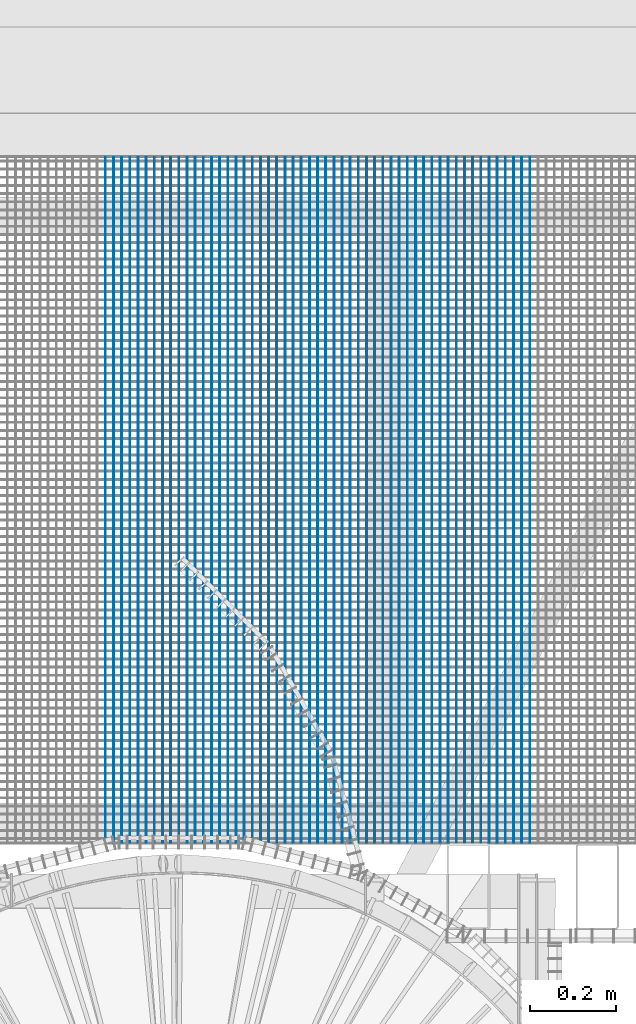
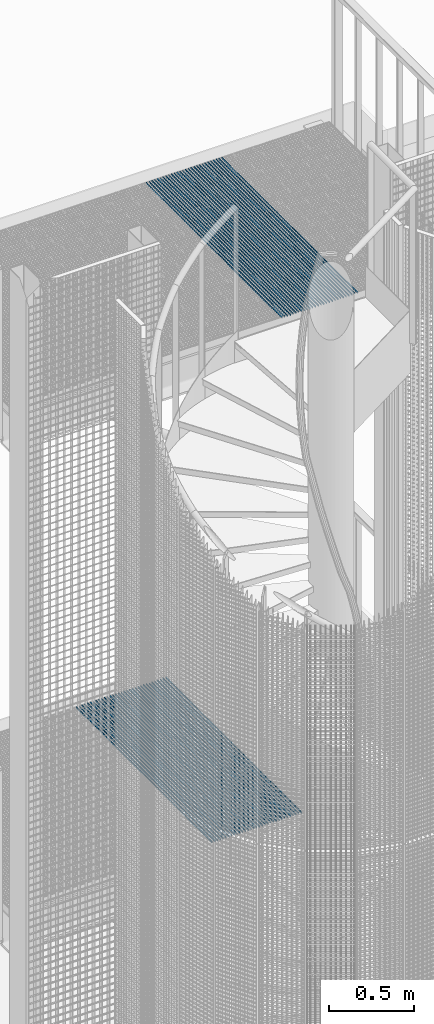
# One storey, part 97 of 1183: 61 beams, 2 elements without a shape of their own.
"""IFC2X3 building model written with IfcOpenShell, lengths in millimetres."""

import ifcopenshell
import ifcopenshell.guid

model = None  # the IFC model being written
_history = None  # IfcOwnerHistory: only IFC2X3 demands one
_inside = {}  # id of a spatial element -> (the spatial element, [elements in it])
_under = {}  # id of a project, library or spatial element -> (it, [spatial elements below it])
_declared = {}  # id of a project -> (the project, [libraries it declares])
_typed = {}  # id of a type object -> (the type object, [elements of that type])
_made_of = {}  # id of a material, layer set ... -> (it, [elements and type objects made of it])


def new_model(schema):
    """Start an empty IFC model of exactly this schema.

    Asked for "IFC4X3", IfcOpenShell would pick the latest addendum, in which some entities
    have other attributes; the version numbers below select the first issue.
    IFC2X3 requires an IfcOwnerHistory on every rooted entity: one is made here for all.
    """
    global model, _history
    if schema == "IFC4X3":
        model = ifcopenshell.file(schema_version=(4, 3, 0, 0))
    else:
        model = ifcopenshell.file(schema=schema)
    _inside.clear()
    _under.clear()
    _declared.clear()
    _typed.clear()
    _made_of.clear()
    _history = None
    if model.schema == "IFC2X3":
        org = make("IfcOrganization", Name="unknown")
        user = make(
            "IfcPersonAndOrganization",
            ThePerson=make("IfcPerson", FamilyName="unknown"),
            TheOrganization=org,
        )
        app = make(
            "IfcApplication",
            ApplicationDeveloper=org,
            Version="unknown",
            ApplicationFullName="unknown",
            ApplicationIdentifier="unknown",
        )
        _history = make(
            "IfcOwnerHistory",
            OwningUser=user,
            OwningApplication=app,
            ChangeAction="ADDED",
            CreationDate=0,
        )
    return model


def make(cls, **values):
    """One entity of the class cls with the attributes given. An attribute that is None is left unset."""
    return model.create_entity(
        cls, **{name: value for name, value in values.items() if value is not None}
    )


def rooted(cls, **values):
    """An entity with a GlobalId (a new one), such as an element, a storey or a relation."""
    return make(cls, GlobalId=ifcopenshell.guid.new(), OwnerHistory=_history, **values)


def si_unit(unit_type, name, prefix=None):
    """IfcSIUnit, for example si_unit("LENGTHUNIT", "METRE", prefix="MILLI")."""
    return make("IfcSIUnit", UnitType=unit_type, Prefix=prefix, Name=name)


def assignment(units):
    """IfcUnitAssignment: the units of a project."""
    return None if units is None else make("IfcUnitAssignment", Units=units)


def point(xyz):
    """IfcCartesianPoint."""
    return None if xyz is None else make("IfcCartesianPoint", Coordinates=xyz)


def direction(xyz):
    """IfcDirection."""
    return None if xyz is None else make("IfcDirection", DirectionRatios=xyz)


def frame(location, z_axis=None, x_axis=None):
    """IfcAxis2Placement3D, a coordinate frame: its origin and axes. An axis left out is left unset."""
    return make(
        "IfcAxis2Placement3D",
        Location=point(location),
        Axis=direction(z_axis),
        RefDirection=direction(x_axis),
    )


def frame_2d(location, x_axis=None):
    """IfcAxis2Placement2D, a coordinate frame in the plane: its origin and x axis."""
    return make(
        "IfcAxis2Placement2D", Location=point(location), RefDirection=direction(x_axis)
    )


def origin_with_axes():
    """The frame at (0, 0, 0) with the z axis (0, 0, 1) and the x axis (1, 0, 0) written out."""
    return frame((0.0, 0.0, 0.0), z_axis=(0.0, 0.0, 1.0), x_axis=(1.0, 0.0, 0.0))


def origin_2d_with_axis():
    """The frame at (0, 0) in the plane with the x axis (1, 0) written out."""
    return frame_2d((0.0, 0.0), x_axis=(1.0, 0.0))


def place(relative_to, where):
    """IfcLocalPlacement: puts the frame where relative to a parent placement (None: the world)."""
    return make(
        "IfcLocalPlacement", PlacementRelTo=relative_to, RelativePlacement=where
    )


def context(
    kind, dimensions, precision=None, world=None, true_north=None, identifier=None
):
    """IfcGeometricRepresentationContext, for example the 3D "Model" context."""
    return make(
        "IfcGeometricRepresentationContext",
        ContextIdentifier=identifier,
        ContextType=kind,
        CoordinateSpaceDimension=dimensions,
        Precision=precision,
        WorldCoordinateSystem=world,
        TrueNorth=true_north,
    )


def subcontext(parent, identifier, kind, view, scale=None):
    """IfcGeometricRepresentationSubContext, for example "Body" below "Model"."""
    return make(
        "IfcGeometricRepresentationSubContext",
        ContextIdentifier=identifier,
        ContextType=kind,
        ParentContext=parent,
        TargetScale=scale,
        TargetView=view,
    )


def project(units=None, contexts=None):
    """IfcProject with its units and contexts."""
    return rooted(
        "IfcProject",
        Name="project",
        RepresentationContexts=contexts,
        UnitsInContext=assignment(units),
    )


def spatial(cls, under=None, at=None, **own):
    """A site, building, storey or space (cls), placed at a placement, below another one or the project."""
    s = rooted(cls, ObjectPlacement=at, **own)
    if under is not None:
        _under.setdefault(under.id(), (under, []))[1].append(s)
    return s


def profile(cls, at=None, kind="AREA", **sizes):
    """A parametric profile (cls). Its sizes go by their IFC names, for example OverallWidth=200.0."""
    return make(cls, ProfileType=kind, Position=at, **sizes)


def rectangle(**sizes):
    """IfcRectangleProfileDef."""
    return profile("IfcRectangleProfileDef", **sizes)


def extrude(swept, where, along, depth):
    """IfcExtrudedAreaSolid: the profile swept, set in the frame where, extruded along a direction by depth."""
    return make(
        "IfcExtrudedAreaSolid",
        SweptArea=swept,
        Position=where,
        ExtrudedDirection=direction(along),
        Depth=depth,
    )


def shape(context_of_items, identifier, shape_type, items):
    """IfcShapeRepresentation: the items that make up one representation, for example the "Body"."""
    return make(
        "IfcShapeRepresentation",
        ContextOfItems=context_of_items,
        RepresentationIdentifier=identifier,
        RepresentationType=shape_type,
        Items=items,
    )


def material(Name=None, Category=None):
    """IfcMaterial."""
    return make("IfcMaterial", Name=Name, Category=Category)


def made_of(thing, what):
    """Note that an element or type object is made of a material, layer set ...; save() writes the relation."""
    if what is not None:
        _made_of.setdefault(what.id(), (what, []))[1].append(thing)
    return thing


def type_object(cls, material=None, **own):
    """A type object (cls), such as IfcWallType, which elements share."""
    return made_of(rooted(cls, **own), material)


def element(
    cls,
    number,
    at=None,
    inside=None,
    cuts=None,
    type_object=None,
    material=None,
    context=None,
    identifier="Body",
    shape_type=None,
    held_by="IfcProductDefinitionShape",
    body=None,
    shapes=None,
    **own,
):
    """One element of the class cls, such as IfcWall. Its Tag is "e" and its number.

    at: its placement. inside: the storey or other place that contains it. cuts: it is an
    opening in that element (IfcRelVoidsElement). A single representation is given by context,
    identifier, shape_type and body (its items); several are given by shapes. held_by: the class
    of the entity that holds the representations. save() writes the other relations.
    """
    e = rooted(cls, Tag="e%d" % number, ObjectPlacement=at, **own)
    if body is not None:
        shapes = [shape(context, identifier, shape_type, body)]
    if shapes is not None:
        e.Representation = make(held_by, Representations=shapes)
    if inside is not None:
        _inside.setdefault(inside.id(), (inside, []))[1].append(e)
    if cuts is not None:
        rooted(
            "IfcRelVoidsElement", RelatingBuildingElement=cuts, RelatedOpeningElement=e
        )
    if type_object is not None:
        _typed.setdefault(type_object.id(), (type_object, []))[1].append(e)
    return made_of(e, material)


def aggregate(whole, parts):
    """IfcRelAggregates: a whole, such as a stair, and the parts it consists of."""
    return rooted("IfcRelAggregates", RelatingObject=whole, RelatedObjects=parts)


def save(model, path):
    """Write the relations noted so far, then the file.

    IfcRelAggregates (storeys below a building ...), IfcRelContainedInSpatialStructure (elements
    in a storey), IfcRelDefinesByType, IfcRelAssociatesMaterial and IfcRelDeclares: one each for
    every whole, place, type object, material and project.
    """
    for whole, parts in _under.values():
        aggregate(whole, parts)
    for where, things in _inside.values():
        rooted(
            "IfcRelContainedInSpatialStructure",
            RelatedElements=things,
            RelatingStructure=where,
        )
    for kind, things in _typed.values():
        rooted("IfcRelDefinesByType", RelatedObjects=things, RelatingType=kind)
    for what, things in _made_of.values():
        rooted("IfcRelAssociatesMaterial", RelatedObjects=things, RelatingMaterial=what)
    for by, libraries in _declared.values():
        rooted("IfcRelDeclares", RelatingContext=by, RelatedDefinitions=libraries)
    model.write(path)


model = new_model("IFC2X3")

# Units and contexts
model_context = context("Model", 3, precision=1e-05, world=origin_with_axes())
body_context = subcontext(model_context, "Body", "Model", "MODEL_VIEW")
ifc_project = project(units=[si_unit("LENGTHUNIT", "METRE", prefix="MILLI"), si_unit("AREAUNIT", "SQUARE_METRE"), si_unit("VOLUMEUNIT", "CUBIC_METRE"), si_unit("MASSUNIT", "GRAM", prefix="KILO"), si_unit("TIMEUNIT", "SECOND"), si_unit("PLANEANGLEUNIT", "RADIAN"), si_unit("SOLIDANGLEUNIT", "STERADIAN"), si_unit("THERMODYNAMICTEMPERATUREUNIT", "DEGREE_CELSIUS"), si_unit("LUMINOUSINTENSITYUNIT", "LUMEN")], contexts=[model_context])

# Site, building, storey
site_placement = place(None, origin_with_axes())
site = spatial("IfcSite", under=ifc_project, at=site_placement, Name="Undefined", CompositionType="ELEMENT")
building_placement = place(site_placement, origin_with_axes())
building = spatial("IfcBuilding", under=site, at=building_placement, Name="Undefined", CompositionType="ELEMENT")
storey_placement = place(building_placement, origin_with_axes())
storey = spatial("IfcBuildingStorey", under=building, at=storey_placement, Name="Undefined", CompositionType="ELEMENT", Elevation=0.0)

# Assembly, beams
assembly_1_placement = place(storey_placement, origin_with_axes())
assembly_1 = element("IfcElementAssembly", 1, at=assembly_1_placement, inside=storey, Name="BORDURE", AssemblyPlace="NOTDEFINED", PredefinedType="NOTDEFINED")
ifc_material = material(Name="STEEL/S235JR")
beam_type = type_object("IfcBeamType", Name="PL2*10", PredefinedType="NOTDEFINED")
beam_1_placement = place(assembly_1_placement, frame((21904.1154247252, 1102.00381531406, 17285.0), z_axis=(0.0, 0.0, 1.0), x_axis=(-4.50599999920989e-06, 0.999999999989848, 0.0)))
beam_1 = element("IfcBeam", 2, at=beam_1_placement, type_object=beam_type, material=ifc_material, Name="ENTRETOISE", context=body_context, shape_type="SweptSolid", body=[
    extrude(rectangle(XDim=2.0, YDim=10.0, at=origin_2d_with_axis()), frame((1596.0000000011, -1.35186458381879e-18, -7.27595761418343e-12), z_axis=(-1.0, 0.0, 0.0), x_axis=(0.0, -1.0, 0.0)), (0.0, 0.0, 1.0), 1596.0),
])
beam_2_placement = place(assembly_1_placement, frame((21923.1154247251, 1102.00390883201, 17285.0), z_axis=(0.0, 0.0, 1.0), x_axis=(-4.50599999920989e-06, 0.999999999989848, 0.0)))
beam_2 = element("IfcBeam", 3, at=beam_2_placement, type_object=beam_type, material=ifc_material, Name="ENTRETOISE", context=body_context, shape_type="SweptSolid", body=[
    extrude(rectangle(XDim=2.0, YDim=10.0, at=origin_2d_with_axis()), frame((1596.0000000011, -1.35186458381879e-18, -7.27595761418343e-12), z_axis=(-1.0, 0.0, 0.0), x_axis=(0.0, -1.0, 0.0)), (0.0, 0.0, 1.0), 1596.0),
])
beam_3_placement = place(assembly_1_placement, frame((21942.115424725, 1102.00400234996, 17285.0), z_axis=(0.0, 0.0, 1.0), x_axis=(-4.50599999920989e-06, 0.999999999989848, 0.0)))
beam_3 = element("IfcBeam", 4, at=beam_3_placement, type_object=beam_type, material=ifc_material, Name="ENTRETOISE", context=body_context, shape_type="SweptSolid", body=[
    extrude(rectangle(XDim=2.0, YDim=10.0, at=origin_2d_with_axis()), frame((1596.0000000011, -1.35186458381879e-18, -7.27595761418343e-12), z_axis=(-1.0, 0.0, 0.0), x_axis=(0.0, -1.0, 0.0)), (0.0, 0.0, 1.0), 1596.0),
])
beam_4_placement = place(assembly_1_placement, frame((21961.115424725, 1102.00409586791, 17285.0), z_axis=(0.0, 0.0, 1.0), x_axis=(-4.50599999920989e-06, 0.999999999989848, 0.0)))
beam_4 = element("IfcBeam", 5, at=beam_4_placement, type_object=beam_type, material=ifc_material, Name="ENTRETOISE", context=body_context, shape_type="SweptSolid", body=[
    extrude(rectangle(XDim=2.0, YDim=10.0, at=origin_2d_with_axis()), frame((1596.0000000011, -1.35186458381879e-18, -7.27595761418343e-12), z_axis=(-1.0, 0.0, 0.0), x_axis=(0.0, -1.0, 0.0)), (0.0, 0.0, 1.0), 1596.0),
])
beam_5_placement = place(assembly_1_placement, frame((21980.1154247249, 1102.00418938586, 17285.0), z_axis=(0.0, 0.0, 1.0), x_axis=(-4.50599999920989e-06, 0.999999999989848, 0.0)))
beam_5 = element("IfcBeam", 6, at=beam_5_placement, type_object=beam_type, material=ifc_material, Name="ENTRETOISE", context=body_context, shape_type="SweptSolid", body=[
    extrude(rectangle(XDim=2.0, YDim=10.0, at=origin_2d_with_axis()), frame((1596.0000000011, -1.35186458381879e-18, -7.27595761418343e-12), z_axis=(-1.0, 0.0, 0.0), x_axis=(0.0, -1.0, 0.0)), (0.0, 0.0, 1.0), 1596.0),
])
beam_6_placement = place(assembly_1_placement, frame((21999.1154247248, 1102.0042829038, 17285.0), z_axis=(0.0, 0.0, 1.0), x_axis=(-4.50599999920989e-06, 0.999999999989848, 0.0)))
beam_6 = element("IfcBeam", 7, at=beam_6_placement, type_object=beam_type, material=ifc_material, Name="ENTRETOISE", context=body_context, shape_type="SweptSolid", body=[
    extrude(rectangle(XDim=2.0, YDim=10.0, at=origin_2d_with_axis()), frame((1596.0000000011, -1.35186458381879e-18, -7.27595761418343e-12), z_axis=(-1.0, 0.0, 0.0), x_axis=(0.0, -1.0, 0.0)), (0.0, 0.0, 1.0), 1596.0),
])
beam_7_placement = place(assembly_1_placement, frame((22018.1154247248, 1102.00437642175, 17285.0), z_axis=(0.0, 0.0, 1.0), x_axis=(-4.50599999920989e-06, 0.999999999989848, 0.0)))
beam_7 = element("IfcBeam", 8, at=beam_7_placement, type_object=beam_type, material=ifc_material, Name="ENTRETOISE", context=body_context, shape_type="SweptSolid", body=[
    extrude(rectangle(XDim=2.0, YDim=10.0, at=origin_2d_with_axis()), frame((1596.0000000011, -1.35186458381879e-18, -7.27595761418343e-12), z_axis=(-1.0, 0.0, 0.0), x_axis=(0.0, -1.0, 0.0)), (0.0, 0.0, 1.0), 1596.0),
])
beam_8_placement = place(assembly_1_placement, frame((22037.1154247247, 1102.0044699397, 17285.0), z_axis=(0.0, 0.0, 1.0), x_axis=(-4.50599999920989e-06, 0.999999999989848, 0.0)))
beam_8 = element("IfcBeam", 9, at=beam_8_placement, type_object=beam_type, material=ifc_material, Name="ENTRETOISE", context=body_context, shape_type="SweptSolid", body=[
    extrude(rectangle(XDim=2.0, YDim=10.0, at=origin_2d_with_axis()), frame((1596.0000000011, -1.35186458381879e-18, -7.27595761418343e-12), z_axis=(-1.0, 0.0, 0.0), x_axis=(0.0, -1.0, 0.0)), (0.0, 0.0, 1.0), 1596.0),
])
beam_9_placement = place(assembly_1_placement, frame((22056.1154247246, 1102.00456345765, 17285.0), z_axis=(0.0, 0.0, 1.0), x_axis=(-4.50599999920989e-06, 0.999999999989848, 0.0)))
beam_9 = element("IfcBeam", 10, at=beam_9_placement, type_object=beam_type, material=ifc_material, Name="ENTRETOISE", context=body_context, shape_type="SweptSolid", body=[
    extrude(rectangle(XDim=2.0, YDim=10.0, at=origin_2d_with_axis()), frame((1596.0000000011, -1.35186458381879e-18, -7.27595761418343e-12), z_axis=(-1.0, 0.0, 0.0), x_axis=(0.0, -1.0, 0.0)), (0.0, 0.0, 1.0), 1596.0),
])
beam_10_placement = place(assembly_1_placement, frame((22075.1154247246, 1102.0046569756, 17285.0), z_axis=(0.0, 0.0, 1.0), x_axis=(-4.50599999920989e-06, 0.999999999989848, 0.0)))
beam_10 = element("IfcBeam", 11, at=beam_10_placement, type_object=beam_type, material=ifc_material, Name="ENTRETOISE", context=body_context, shape_type="SweptSolid", body=[
    extrude(rectangle(XDim=2.0, YDim=10.0, at=origin_2d_with_axis()), frame((1596.0000000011, -1.35186458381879e-18, -7.27595761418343e-12), z_axis=(-1.0, 0.0, 0.0), x_axis=(0.0, -1.0, 0.0)), (0.0, 0.0, 1.0), 1596.0),
])
beam_11_placement = place(assembly_1_placement, frame((22094.1154247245, 1102.00475049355, 17285.0), z_axis=(0.0, 0.0, 1.0), x_axis=(-4.50599999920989e-06, 0.999999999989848, 0.0)))
beam_11 = element("IfcBeam", 12, at=beam_11_placement, type_object=beam_type, material=ifc_material, Name="ENTRETOISE", context=body_context, shape_type="SweptSolid", body=[
    extrude(rectangle(XDim=2.0, YDim=10.0, at=origin_2d_with_axis()), frame((1596.0000000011, -1.35186458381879e-18, -7.27595761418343e-12), z_axis=(-1.0, 0.0, 0.0), x_axis=(0.0, -1.0, 0.0)), (0.0, 0.0, 1.0), 1596.0),
])
beam_12_placement = place(assembly_1_placement, frame((22113.1154247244, 1102.0048440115, 17285.0), z_axis=(0.0, 0.0, 1.0), x_axis=(-4.50599999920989e-06, 0.999999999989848, 0.0)))
beam_12 = element("IfcBeam", 13, at=beam_12_placement, type_object=beam_type, material=ifc_material, Name="ENTRETOISE", context=body_context, shape_type="SweptSolid", body=[
    extrude(rectangle(XDim=2.0, YDim=10.0, at=origin_2d_with_axis()), frame((1596.0000000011, -1.35186458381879e-18, -7.27595761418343e-12), z_axis=(-1.0, 0.0, 0.0), x_axis=(0.0, -1.0, 0.0)), (0.0, 0.0, 1.0), 1596.0),
])
beam_13_placement = place(assembly_1_placement, frame((22132.1154247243, 1102.00493752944, 17285.0), z_axis=(0.0, 0.0, 1.0), x_axis=(-4.50599999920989e-06, 0.999999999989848, 0.0)))
beam_13 = element("IfcBeam", 14, at=beam_13_placement, type_object=beam_type, material=ifc_material, Name="ENTRETOISE", context=body_context, shape_type="SweptSolid", body=[
    extrude(rectangle(XDim=2.0, YDim=10.0, at=origin_2d_with_axis()), frame((1596.0000000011, -1.35186458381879e-18, -7.27595761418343e-12), z_axis=(-1.0, 0.0, 0.0), x_axis=(0.0, -1.0, 0.0)), (0.0, 0.0, 1.0), 1596.0),
])
beam_14_placement = place(assembly_1_placement, frame((22151.1154247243, 1102.00503104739, 17285.0), z_axis=(0.0, 0.0, 1.0), x_axis=(-4.50599999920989e-06, 0.999999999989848, 0.0)))
beam_14 = element("IfcBeam", 15, at=beam_14_placement, type_object=beam_type, material=ifc_material, Name="ENTRETOISE", context=body_context, shape_type="SweptSolid", body=[
    extrude(rectangle(XDim=2.0, YDim=10.0, at=origin_2d_with_axis()), frame((1596.0000000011, -1.35186458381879e-18, -7.27595761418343e-12), z_axis=(-1.0, 0.0, 0.0), x_axis=(0.0, -1.0, 0.0)), (0.0, 0.0, 1.0), 1596.0),
])
beam_15_placement = place(assembly_1_placement, frame((22170.1154247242, 1102.00512456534, 17285.0), z_axis=(0.0, 0.0, 1.0), x_axis=(-4.50599999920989e-06, 0.999999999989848, 0.0)))
beam_15 = element("IfcBeam", 16, at=beam_15_placement, type_object=beam_type, material=ifc_material, Name="ENTRETOISE", context=body_context, shape_type="SweptSolid", body=[
    extrude(rectangle(XDim=2.0, YDim=10.0, at=origin_2d_with_axis()), frame((1596.0000000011, -1.35186458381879e-18, -7.27595761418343e-12), z_axis=(-1.0, 0.0, 0.0), x_axis=(0.0, -1.0, 0.0)), (0.0, 0.0, 1.0), 1596.0),
])
beam_16_placement = place(assembly_1_placement, frame((22189.1154247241, 1102.00521808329, 17285.0), z_axis=(0.0, 0.0, 1.0), x_axis=(-4.50599999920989e-06, 0.999999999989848, 0.0)))
beam_16 = element("IfcBeam", 17, at=beam_16_placement, type_object=beam_type, material=ifc_material, Name="ENTRETOISE", context=body_context, shape_type="SweptSolid", body=[
    extrude(rectangle(XDim=2.0, YDim=10.0, at=origin_2d_with_axis()), frame((1596.0000000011, -1.35186458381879e-18, -7.27595761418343e-12), z_axis=(-1.0, 0.0, 0.0), x_axis=(0.0, -1.0, 0.0)), (0.0, 0.0, 1.0), 1596.0),
])
beam_17_placement = place(assembly_1_placement, frame((22208.1154247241, 1102.00531160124, 17285.0), z_axis=(0.0, 0.0, 1.0), x_axis=(-4.50599999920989e-06, 0.999999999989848, 0.0)))
beam_17 = element("IfcBeam", 18, at=beam_17_placement, type_object=beam_type, material=ifc_material, Name="ENTRETOISE", context=body_context, shape_type="SweptSolid", body=[
    extrude(rectangle(XDim=2.0, YDim=10.0, at=origin_2d_with_axis()), frame((1596.0000000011, -1.35186458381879e-18, -7.27595761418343e-12), z_axis=(-1.0, 0.0, 0.0), x_axis=(0.0, -1.0, 0.0)), (0.0, 0.0, 1.0), 1596.0),
])
beam_18_placement = place(assembly_1_placement, frame((22227.115424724, 1102.00540511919, 17285.0), z_axis=(0.0, 0.0, 1.0), x_axis=(-4.50599999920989e-06, 0.999999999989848, 0.0)))
beam_18 = element("IfcBeam", 19, at=beam_18_placement, type_object=beam_type, material=ifc_material, Name="ENTRETOISE", context=body_context, shape_type="SweptSolid", body=[
    extrude(rectangle(XDim=2.0, YDim=10.0, at=origin_2d_with_axis()), frame((1596.0000000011, -1.35186458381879e-18, -7.27595761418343e-12), z_axis=(-1.0, 0.0, 0.0), x_axis=(0.0, -1.0, 0.0)), (0.0, 0.0, 1.0), 1596.0),
])
beam_19_placement = place(assembly_1_placement, frame((22246.1154247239, 1102.00549863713, 17285.0), z_axis=(0.0, 0.0, 1.0), x_axis=(-4.50599999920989e-06, 0.999999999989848, 0.0)))
beam_19 = element("IfcBeam", 20, at=beam_19_placement, type_object=beam_type, material=ifc_material, Name="ENTRETOISE", context=body_context, shape_type="SweptSolid", body=[
    extrude(rectangle(XDim=2.0, YDim=10.0, at=origin_2d_with_axis()), frame((1596.0000000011, -1.35186458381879e-18, -7.27595761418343e-12), z_axis=(-1.0, 0.0, 0.0), x_axis=(0.0, -1.0, 0.0)), (0.0, 0.0, 1.0), 1596.0),
])
beam_20_placement = place(assembly_1_placement, frame((22265.1154247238, 1102.00559215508, 17285.0), z_axis=(0.0, 0.0, 1.0), x_axis=(-4.50599999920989e-06, 0.999999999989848, 0.0)))
beam_20 = element("IfcBeam", 21, at=beam_20_placement, type_object=beam_type, material=ifc_material, Name="ENTRETOISE", context=body_context, shape_type="SweptSolid", body=[
    extrude(rectangle(XDim=2.0, YDim=10.0, at=origin_2d_with_axis()), frame((1596.0000000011, -1.35186458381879e-18, -7.27595761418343e-12), z_axis=(-1.0, 0.0, 0.0), x_axis=(0.0, -1.0, 0.0)), (0.0, 0.0, 1.0), 1596.0),
])
beam_21_placement = place(assembly_1_placement, frame((22284.1154247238, 1102.00568567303, 17285.0), z_axis=(0.0, 0.0, 1.0), x_axis=(-4.50599999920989e-06, 0.999999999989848, 0.0)))
beam_21 = element("IfcBeam", 22, at=beam_21_placement, type_object=beam_type, material=ifc_material, Name="ENTRETOISE", context=body_context, shape_type="SweptSolid", body=[
    extrude(rectangle(XDim=2.0, YDim=10.0, at=origin_2d_with_axis()), frame((1596.0000000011, -1.35186458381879e-18, -7.27595761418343e-12), z_axis=(-1.0, 0.0, 0.0), x_axis=(0.0, -1.0, 0.0)), (0.0, 0.0, 1.0), 1596.0),
])
beam_22_placement = place(assembly_1_placement, frame((22303.1154247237, 1102.00577919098, 17285.0), z_axis=(0.0, 0.0, 1.0), x_axis=(-4.50599999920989e-06, 0.999999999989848, 0.0)))
beam_22 = element("IfcBeam", 23, at=beam_22_placement, type_object=beam_type, material=ifc_material, Name="ENTRETOISE", context=body_context, shape_type="SweptSolid", body=[
    extrude(rectangle(XDim=2.0, YDim=10.0, at=origin_2d_with_axis()), frame((1596.0000000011, -1.35186458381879e-18, -7.27595761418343e-12), z_axis=(-1.0, 0.0, 0.0), x_axis=(0.0, -1.0, 0.0)), (0.0, 0.0, 1.0), 1596.0),
])
beam_23_placement = place(assembly_1_placement, frame((22322.1154247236, 1102.00587270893, 17285.0), z_axis=(0.0, 0.0, 1.0), x_axis=(-4.50599999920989e-06, 0.999999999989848, 0.0)))
beam_23 = element("IfcBeam", 24, at=beam_23_placement, type_object=beam_type, material=ifc_material, Name="ENTRETOISE", context=body_context, shape_type="SweptSolid", body=[
    extrude(rectangle(XDim=2.0, YDim=10.0, at=origin_2d_with_axis()), frame((1596.0000000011, -1.35186458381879e-18, -7.27595761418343e-12), z_axis=(-1.0, 0.0, 0.0), x_axis=(0.0, -1.0, 0.0)), (0.0, 0.0, 1.0), 1596.0),
])
beam_24_placement = place(assembly_1_placement, frame((22341.1154247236, 1102.00596622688, 17285.0), z_axis=(0.0, 0.0, 1.0), x_axis=(-4.50599999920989e-06, 0.999999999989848, 0.0)))
beam_24 = element("IfcBeam", 25, at=beam_24_placement, type_object=beam_type, material=ifc_material, Name="ENTRETOISE", context=body_context, shape_type="SweptSolid", body=[
    extrude(rectangle(XDim=2.0, YDim=10.0, at=origin_2d_with_axis()), frame((1596.0000000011, -1.35186458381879e-18, -7.27595761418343e-12), z_axis=(-1.0, 0.0, 0.0), x_axis=(0.0, -1.0, 0.0)), (0.0, 0.0, 1.0), 1596.0),
])
beam_25_placement = place(assembly_1_placement, frame((22360.1154247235, 1102.00605974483, 17285.0), z_axis=(0.0, 0.0, 1.0), x_axis=(-4.50599999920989e-06, 0.999999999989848, 0.0)))
beam_25 = element("IfcBeam", 26, at=beam_25_placement, type_object=beam_type, material=ifc_material, Name="ENTRETOISE", context=body_context, shape_type="SweptSolid", body=[
    extrude(rectangle(XDim=2.0, YDim=10.0, at=origin_2d_with_axis()), frame((1596.0000000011, -1.35186458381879e-18, -7.27595761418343e-12), z_axis=(-1.0, 0.0, 0.0), x_axis=(0.0, -1.0, 0.0)), (0.0, 0.0, 1.0), 1596.0),
])
beam_26_placement = place(assembly_1_placement, frame((22379.1154247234, 1102.00615326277, 17285.0), z_axis=(0.0, 0.0, 1.0), x_axis=(-4.50599999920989e-06, 0.999999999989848, 0.0)))
beam_26 = element("IfcBeam", 27, at=beam_26_placement, type_object=beam_type, material=ifc_material, Name="ENTRETOISE", context=body_context, shape_type="SweptSolid", body=[
    extrude(rectangle(XDim=2.0, YDim=10.0, at=origin_2d_with_axis()), frame((1596.0000000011, -1.35186458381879e-18, -7.27595761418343e-12), z_axis=(-1.0, 0.0, 0.0), x_axis=(0.0, -1.0, 0.0)), (0.0, 0.0, 1.0), 1596.0),
])
beam_27_placement = place(assembly_1_placement, frame((22398.1154247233, 1102.00624678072, 17285.0), z_axis=(0.0, 0.0, 1.0), x_axis=(-4.50599999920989e-06, 0.999999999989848, 0.0)))
beam_27 = element("IfcBeam", 28, at=beam_27_placement, type_object=beam_type, material=ifc_material, Name="ENTRETOISE", context=body_context, shape_type="SweptSolid", body=[
    extrude(rectangle(XDim=2.0, YDim=10.0, at=origin_2d_with_axis()), frame((1596.0000000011, -1.35186458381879e-18, -7.27595761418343e-12), z_axis=(-1.0, 0.0, 0.0), x_axis=(0.0, -1.0, 0.0)), (0.0, 0.0, 1.0), 1596.0),
])
beam_28_placement = place(assembly_1_placement, frame((22417.1154247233, 1102.00634029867, 17285.0), z_axis=(0.0, 0.0, 1.0), x_axis=(-4.50599999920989e-06, 0.999999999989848, 0.0)))
beam_28 = element("IfcBeam", 29, at=beam_28_placement, type_object=beam_type, material=ifc_material, Name="ENTRETOISE", context=body_context, shape_type="SweptSolid", body=[
    extrude(rectangle(XDim=2.0, YDim=10.0, at=origin_2d_with_axis()), frame((1596.0000000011, -1.35186458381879e-18, -7.27595761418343e-12), z_axis=(-1.0, 0.0, 0.0), x_axis=(0.0, -1.0, 0.0)), (0.0, 0.0, 1.0), 1596.0),
])
aggregate(assembly_1, [beam_1, beam_2, beam_3, beam_4, beam_5, beam_6, beam_7, beam_8, beam_9, beam_10, beam_11, beam_12, beam_13, beam_14, beam_15, beam_16, beam_17, beam_18, beam_19, beam_20, beam_21, beam_22, beam_23, beam_24, beam_25, beam_26, beam_27, beam_28])

assembly_2_placement = place(storey_placement, origin_with_axes())
assembly_2 = element("IfcElementAssembly", 30, at=assembly_2_placement, inside=storey, Name="BORDURE", AssemblyPlace="NOTDEFINED", PredefinedType="NOTDEFINED")
beam_29_placement = place(assembly_2_placement, frame((21429.115424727, 1102.00147736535, 13685.0), z_axis=(0.0, 0.0, 1.0), x_axis=(-4.50599999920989e-06, 0.999999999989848, 0.0)))
beam_29 = element("IfcBeam", 31, at=beam_29_placement, type_object=beam_type, material=ifc_material, Name="ENTRETOISE", context=body_context, shape_type="SweptSolid", body=[
    extrude(rectangle(XDim=2.0, YDim=10.0, at=origin_2d_with_axis()), frame((1596.0000000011, -1.35186458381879e-18, -7.27595761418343e-12), z_axis=(-1.0, 0.0, 0.0), x_axis=(0.0, -1.0, 0.0)), (0.0, 0.0, 1.0), 1596.0),
])
beam_30_placement = place(assembly_2_placement, frame((21448.1154247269, 1102.0015708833, 13685.0), z_axis=(0.0, 0.0, 1.0), x_axis=(-4.50599999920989e-06, 0.999999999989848, 0.0)))
beam_30 = element("IfcBeam", 32, at=beam_30_placement, type_object=beam_type, material=ifc_material, Name="ENTRETOISE", context=body_context, shape_type="SweptSolid", body=[
    extrude(rectangle(XDim=2.0, YDim=10.0, at=origin_2d_with_axis()), frame((1596.0000000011, -1.35186458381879e-18, -7.27595761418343e-12), z_axis=(-1.0, 0.0, 0.0), x_axis=(0.0, -1.0, 0.0)), (0.0, 0.0, 1.0), 1596.0),
])
beam_31_placement = place(assembly_2_placement, frame((21467.1154247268, 1102.00166440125, 13685.0), z_axis=(0.0, 0.0, 1.0), x_axis=(-4.50599999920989e-06, 0.999999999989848, 0.0)))
beam_31 = element("IfcBeam", 33, at=beam_31_placement, type_object=beam_type, material=ifc_material, Name="ENTRETOISE", context=body_context, shape_type="SweptSolid", body=[
    extrude(rectangle(XDim=2.0, YDim=10.0, at=origin_2d_with_axis()), frame((1596.0000000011, -1.35186458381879e-18, -7.27595761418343e-12), z_axis=(-1.0, 0.0, 0.0), x_axis=(0.0, -1.0, 0.0)), (0.0, 0.0, 1.0), 1596.0),
])
beam_32_placement = place(assembly_2_placement, frame((21486.1154247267, 1102.0017579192, 13685.0), z_axis=(0.0, 0.0, 1.0), x_axis=(-4.50599999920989e-06, 0.999999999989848, 0.0)))
beam_32 = element("IfcBeam", 34, at=beam_32_placement, type_object=beam_type, material=ifc_material, Name="ENTRETOISE", context=body_context, shape_type="SweptSolid", body=[
    extrude(rectangle(XDim=2.0, YDim=10.0, at=origin_2d_with_axis()), frame((1596.0000000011, -1.35186458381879e-18, -7.27595761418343e-12), z_axis=(-1.0, 0.0, 0.0), x_axis=(0.0, -1.0, 0.0)), (0.0, 0.0, 1.0), 1596.0),
])
beam_33_placement = place(assembly_2_placement, frame((21505.1154247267, 1102.00185143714, 13685.0), z_axis=(0.0, 0.0, 1.0), x_axis=(-4.50599999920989e-06, 0.999999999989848, 0.0)))
beam_33 = element("IfcBeam", 35, at=beam_33_placement, type_object=beam_type, material=ifc_material, Name="ENTRETOISE", context=body_context, shape_type="SweptSolid", body=[
    extrude(rectangle(XDim=2.0, YDim=10.0, at=origin_2d_with_axis()), frame((1596.0000000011, -1.35186458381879e-18, -7.27595761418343e-12), z_axis=(-1.0, 0.0, 0.0), x_axis=(0.0, -1.0, 0.0)), (0.0, 0.0, 1.0), 1596.0),
])
beam_34_placement = place(assembly_2_placement, frame((21524.1154247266, 1102.00194495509, 13685.0), z_axis=(0.0, 0.0, 1.0), x_axis=(-4.50599999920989e-06, 0.999999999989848, 0.0)))
beam_34 = element("IfcBeam", 36, at=beam_34_placement, type_object=beam_type, material=ifc_material, Name="ENTRETOISE", context=body_context, shape_type="SweptSolid", body=[
    extrude(rectangle(XDim=2.0, YDim=10.0, at=origin_2d_with_axis()), frame((1596.0000000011, -1.35186458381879e-18, -7.27595761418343e-12), z_axis=(-1.0, 0.0, 0.0), x_axis=(0.0, -1.0, 0.0)), (0.0, 0.0, 1.0), 1596.0),
])
beam_35_placement = place(assembly_2_placement, frame((21543.1154247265, 1102.00203847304, 13685.0), z_axis=(0.0, 0.0, 1.0), x_axis=(-4.50599999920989e-06, 0.999999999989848, 0.0)))
beam_35 = element("IfcBeam", 37, at=beam_35_placement, type_object=beam_type, material=ifc_material, Name="ENTRETOISE", context=body_context, shape_type="SweptSolid", body=[
    extrude(rectangle(XDim=2.0, YDim=10.0, at=origin_2d_with_axis()), frame((1596.0000000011, -1.35186458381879e-18, -7.27595761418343e-12), z_axis=(-1.0, 0.0, 0.0), x_axis=(0.0, -1.0, 0.0)), (0.0, 0.0, 1.0), 1596.0),
])
beam_36_placement = place(assembly_2_placement, frame((21562.1154247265, 1102.00213199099, 13685.0), z_axis=(0.0, 0.0, 1.0), x_axis=(-4.50599999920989e-06, 0.999999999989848, 0.0)))
beam_36 = element("IfcBeam", 38, at=beam_36_placement, type_object=beam_type, material=ifc_material, Name="ENTRETOISE", context=body_context, shape_type="SweptSolid", body=[
    extrude(rectangle(XDim=2.0, YDim=10.0, at=origin_2d_with_axis()), frame((1596.0000000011, -1.35186458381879e-18, -7.27595761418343e-12), z_axis=(-1.0, 0.0, 0.0), x_axis=(0.0, -1.0, 0.0)), (0.0, 0.0, 1.0), 1596.0),
])
beam_37_placement = place(assembly_2_placement, frame((21581.1154247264, 1102.00222550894, 13685.0), z_axis=(0.0, 0.0, 1.0), x_axis=(-4.50599999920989e-06, 0.999999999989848, 0.0)))
beam_37 = element("IfcBeam", 39, at=beam_37_placement, type_object=beam_type, material=ifc_material, Name="ENTRETOISE", context=body_context, shape_type="SweptSolid", body=[
    extrude(rectangle(XDim=2.0, YDim=10.0, at=origin_2d_with_axis()), frame((1596.0000000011, -1.35186458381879e-18, -7.27595761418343e-12), z_axis=(-1.0, 0.0, 0.0), x_axis=(0.0, -1.0, 0.0)), (0.0, 0.0, 1.0), 1596.0),
])
beam_38_placement = place(assembly_2_placement, frame((21600.1154247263, 1102.00231902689, 13685.0), z_axis=(0.0, 0.0, 1.0), x_axis=(-4.50599999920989e-06, 0.999999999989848, 0.0)))
beam_38 = element("IfcBeam", 40, at=beam_38_placement, type_object=beam_type, material=ifc_material, Name="ENTRETOISE", context=body_context, shape_type="SweptSolid", body=[
    extrude(rectangle(XDim=2.0, YDim=10.0, at=origin_2d_with_axis()), frame((1596.0000000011, -1.35186458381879e-18, -7.27595761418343e-12), z_axis=(-1.0, 0.0, 0.0), x_axis=(0.0, -1.0, 0.0)), (0.0, 0.0, 1.0), 1596.0),
])
beam_39_placement = place(assembly_2_placement, frame((21619.1154247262, 1102.00241254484, 13685.0), z_axis=(0.0, 0.0, 1.0), x_axis=(-4.50599999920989e-06, 0.999999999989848, 0.0)))
beam_39 = element("IfcBeam", 41, at=beam_39_placement, type_object=beam_type, material=ifc_material, Name="ENTRETOISE", context=body_context, shape_type="SweptSolid", body=[
    extrude(rectangle(XDim=2.0, YDim=10.0, at=origin_2d_with_axis()), frame((1596.0000000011, -1.35186458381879e-18, -7.27595761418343e-12), z_axis=(-1.0, 0.0, 0.0), x_axis=(0.0, -1.0, 0.0)), (0.0, 0.0, 1.0), 1596.0),
])
beam_40_placement = place(assembly_2_placement, frame((21638.1154247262, 1102.00250606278, 13685.0), z_axis=(0.0, 0.0, 1.0), x_axis=(-4.50599999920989e-06, 0.999999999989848, 0.0)))
beam_40 = element("IfcBeam", 42, at=beam_40_placement, type_object=beam_type, material=ifc_material, Name="ENTRETOISE", context=body_context, shape_type="SweptSolid", body=[
    extrude(rectangle(XDim=2.0, YDim=10.0, at=origin_2d_with_axis()), frame((1596.0000000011, -1.35186458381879e-18, -7.27595761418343e-12), z_axis=(-1.0, 0.0, 0.0), x_axis=(0.0, -1.0, 0.0)), (0.0, 0.0, 1.0), 1596.0),
])
beam_41_placement = place(assembly_2_placement, frame((21657.1154247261, 1102.00259958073, 13685.0), z_axis=(0.0, 0.0, 1.0), x_axis=(-4.50599999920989e-06, 0.999999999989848, 0.0)))
beam_41 = element("IfcBeam", 43, at=beam_41_placement, type_object=beam_type, material=ifc_material, Name="ENTRETOISE", context=body_context, shape_type="SweptSolid", body=[
    extrude(rectangle(XDim=2.0, YDim=10.0, at=origin_2d_with_axis()), frame((1596.0000000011, -1.35186458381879e-18, -7.27595761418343e-12), z_axis=(-1.0, 0.0, 0.0), x_axis=(0.0, -1.0, 0.0)), (0.0, 0.0, 1.0), 1596.0),
])
beam_42_placement = place(assembly_2_placement, frame((21676.115424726, 1102.00269309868, 13685.0), z_axis=(0.0, 0.0, 1.0), x_axis=(-4.50599999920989e-06, 0.999999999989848, 0.0)))
beam_42 = element("IfcBeam", 44, at=beam_42_placement, type_object=beam_type, material=ifc_material, Name="ENTRETOISE", context=body_context, shape_type="SweptSolid", body=[
    extrude(rectangle(XDim=2.0, YDim=10.0, at=origin_2d_with_axis()), frame((1596.0000000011, -1.35186458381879e-18, -7.27595761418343e-12), z_axis=(-1.0, 0.0, 0.0), x_axis=(0.0, -1.0, 0.0)), (0.0, 0.0, 1.0), 1596.0),
])
beam_43_placement = place(assembly_2_placement, frame((21695.115424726, 1102.00278661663, 13685.0), z_axis=(0.0, 0.0, 1.0), x_axis=(-4.50599999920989e-06, 0.999999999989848, 0.0)))
beam_43 = element("IfcBeam", 45, at=beam_43_placement, type_object=beam_type, material=ifc_material, Name="ENTRETOISE", context=body_context, shape_type="SweptSolid", body=[
    extrude(rectangle(XDim=2.0, YDim=10.0, at=origin_2d_with_axis()), frame((1596.0000000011, -1.35186458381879e-18, -7.27595761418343e-12), z_axis=(-1.0, 0.0, 0.0), x_axis=(0.0, -1.0, 0.0)), (0.0, 0.0, 1.0), 1596.0),
])
beam_44_placement = place(assembly_2_placement, frame((21714.1154247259, 1102.00288013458, 13685.0), z_axis=(0.0, 0.0, 1.0), x_axis=(-4.50599999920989e-06, 0.999999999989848, 0.0)))
beam_44 = element("IfcBeam", 46, at=beam_44_placement, type_object=beam_type, material=ifc_material, Name="ENTRETOISE", context=body_context, shape_type="SweptSolid", body=[
    extrude(rectangle(XDim=2.0, YDim=10.0, at=origin_2d_with_axis()), frame((1596.0000000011, -1.35186458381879e-18, -7.27595761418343e-12), z_axis=(-1.0, 0.0, 0.0), x_axis=(0.0, -1.0, 0.0)), (0.0, 0.0, 1.0), 1596.0),
])
beam_45_placement = place(assembly_2_placement, frame((21733.1154247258, 1102.00297365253, 13685.0), z_axis=(0.0, 0.0, 1.0), x_axis=(-4.50599999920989e-06, 0.999999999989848, 0.0)))
beam_45 = element("IfcBeam", 47, at=beam_45_placement, type_object=beam_type, material=ifc_material, Name="ENTRETOISE", context=body_context, shape_type="SweptSolid", body=[
    extrude(rectangle(XDim=2.0, YDim=10.0, at=origin_2d_with_axis()), frame((1596.0000000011, -1.35186458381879e-18, -7.27595761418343e-12), z_axis=(-1.0, 0.0, 0.0), x_axis=(0.0, -1.0, 0.0)), (0.0, 0.0, 1.0), 1596.0),
])
beam_46_placement = place(assembly_2_placement, frame((21752.1154247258, 1102.00306717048, 13685.0), z_axis=(0.0, 0.0, 1.0), x_axis=(-4.50599999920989e-06, 0.999999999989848, 0.0)))
beam_46 = element("IfcBeam", 48, at=beam_46_placement, type_object=beam_type, material=ifc_material, Name="ENTRETOISE", context=body_context, shape_type="SweptSolid", body=[
    extrude(rectangle(XDim=2.0, YDim=10.0, at=origin_2d_with_axis()), frame((1596.0000000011, -1.35186458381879e-18, -7.27595761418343e-12), z_axis=(-1.0, 0.0, 0.0), x_axis=(0.0, -1.0, 0.0)), (0.0, 0.0, 1.0), 1596.0),
])
beam_47_placement = place(assembly_2_placement, frame((21771.1154247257, 1102.00316068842, 13685.0), z_axis=(0.0, 0.0, 1.0), x_axis=(-4.50599999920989e-06, 0.999999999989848, 0.0)))
beam_47 = element("IfcBeam", 49, at=beam_47_placement, type_object=beam_type, material=ifc_material, Name="ENTRETOISE", context=body_context, shape_type="SweptSolid", body=[
    extrude(rectangle(XDim=2.0, YDim=10.0, at=origin_2d_with_axis()), frame((1596.0000000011, -1.35186458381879e-18, -7.27595761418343e-12), z_axis=(-1.0, 0.0, 0.0), x_axis=(0.0, -1.0, 0.0)), (0.0, 0.0, 1.0), 1596.0),
])
beam_48_placement = place(assembly_2_placement, frame((21790.1154247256, 1102.00325420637, 13685.0), z_axis=(0.0, 0.0, 1.0), x_axis=(-4.50599999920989e-06, 0.999999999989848, 0.0)))
beam_48 = element("IfcBeam", 50, at=beam_48_placement, type_object=beam_type, material=ifc_material, Name="ENTRETOISE", context=body_context, shape_type="SweptSolid", body=[
    extrude(rectangle(XDim=2.0, YDim=10.0, at=origin_2d_with_axis()), frame((1596.0000000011, -1.35186458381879e-18, -7.27595761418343e-12), z_axis=(-1.0, 0.0, 0.0), x_axis=(0.0, -1.0, 0.0)), (0.0, 0.0, 1.0), 1596.0),
])
beam_49_placement = place(assembly_2_placement, frame((21809.1154247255, 1102.00334772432, 13685.0), z_axis=(0.0, 0.0, 1.0), x_axis=(-4.50599999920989e-06, 0.999999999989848, 0.0)))
beam_49 = element("IfcBeam", 51, at=beam_49_placement, type_object=beam_type, material=ifc_material, Name="ENTRETOISE", context=body_context, shape_type="SweptSolid", body=[
    extrude(rectangle(XDim=2.0, YDim=10.0, at=origin_2d_with_axis()), frame((1596.0000000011, -1.35186458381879e-18, -7.27595761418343e-12), z_axis=(-1.0, 0.0, 0.0), x_axis=(0.0, -1.0, 0.0)), (0.0, 0.0, 1.0), 1596.0),
])
beam_50_placement = place(assembly_2_placement, frame((21828.1154247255, 1102.00344124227, 13685.0), z_axis=(0.0, 0.0, 1.0), x_axis=(-4.50599999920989e-06, 0.999999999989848, 0.0)))
beam_50 = element("IfcBeam", 52, at=beam_50_placement, type_object=beam_type, material=ifc_material, Name="ENTRETOISE", context=body_context, shape_type="SweptSolid", body=[
    extrude(rectangle(XDim=2.0, YDim=10.0, at=origin_2d_with_axis()), frame((1596.0000000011, -1.35186458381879e-18, -7.27595761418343e-12), z_axis=(-1.0, 0.0, 0.0), x_axis=(0.0, -1.0, 0.0)), (0.0, 0.0, 1.0), 1596.0),
])
beam_51_placement = place(assembly_2_placement, frame((21847.1154247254, 1102.00353476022, 13685.0), z_axis=(0.0, 0.0, 1.0), x_axis=(-4.50599999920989e-06, 0.999999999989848, 0.0)))
beam_51 = element("IfcBeam", 53, at=beam_51_placement, type_object=beam_type, material=ifc_material, Name="ENTRETOISE", context=body_context, shape_type="SweptSolid", body=[
    extrude(rectangle(XDim=2.0, YDim=10.0, at=origin_2d_with_axis()), frame((1596.0000000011, -1.35186458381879e-18, -7.27595761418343e-12), z_axis=(-1.0, 0.0, 0.0), x_axis=(0.0, -1.0, 0.0)), (0.0, 0.0, 1.0), 1596.0),
])
beam_52_placement = place(assembly_2_placement, frame((21866.1154247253, 1102.00362827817, 13685.0), z_axis=(0.0, 0.0, 1.0), x_axis=(-4.50599999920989e-06, 0.999999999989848, 0.0)))
beam_52 = element("IfcBeam", 54, at=beam_52_placement, type_object=beam_type, material=ifc_material, Name="ENTRETOISE", context=body_context, shape_type="SweptSolid", body=[
    extrude(rectangle(XDim=2.0, YDim=10.0, at=origin_2d_with_axis()), frame((1596.0000000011, -1.35186458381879e-18, -7.27595761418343e-12), z_axis=(-1.0, 0.0, 0.0), x_axis=(0.0, -1.0, 0.0)), (0.0, 0.0, 1.0), 1596.0),
])
beam_53_placement = place(assembly_2_placement, frame((21885.1154247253, 1102.00372179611, 13685.0), z_axis=(0.0, 0.0, 1.0), x_axis=(-4.50599999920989e-06, 0.999999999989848, 0.0)))
beam_53 = element("IfcBeam", 55, at=beam_53_placement, type_object=beam_type, material=ifc_material, Name="ENTRETOISE", context=body_context, shape_type="SweptSolid", body=[
    extrude(rectangle(XDim=2.0, YDim=10.0, at=origin_2d_with_axis()), frame((1596.0000000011, -1.35186458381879e-18, -7.27595761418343e-12), z_axis=(-1.0, 0.0, 0.0), x_axis=(0.0, -1.0, 0.0)), (0.0, 0.0, 1.0), 1596.0),
])
beam_54_placement = place(assembly_2_placement, frame((21904.1154247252, 1102.00381531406, 13685.0), z_axis=(0.0, 0.0, 1.0), x_axis=(-4.50599999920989e-06, 0.999999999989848, 0.0)))
beam_54 = element("IfcBeam", 56, at=beam_54_placement, type_object=beam_type, material=ifc_material, Name="ENTRETOISE", context=body_context, shape_type="SweptSolid", body=[
    extrude(rectangle(XDim=2.0, YDim=10.0, at=origin_2d_with_axis()), frame((1596.0000000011, -1.35186458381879e-18, -7.27595761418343e-12), z_axis=(-1.0, 0.0, 0.0), x_axis=(0.0, -1.0, 0.0)), (0.0, 0.0, 1.0), 1596.0),
])
beam_55_placement = place(assembly_2_placement, frame((21923.1154247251, 1102.00390883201, 13685.0), z_axis=(0.0, 0.0, 1.0), x_axis=(-4.50599999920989e-06, 0.999999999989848, 0.0)))
beam_55 = element("IfcBeam", 57, at=beam_55_placement, type_object=beam_type, material=ifc_material, Name="ENTRETOISE", context=body_context, shape_type="SweptSolid", body=[
    extrude(rectangle(XDim=2.0, YDim=10.0, at=origin_2d_with_axis()), frame((1596.0000000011, -1.35186458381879e-18, -7.27595761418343e-12), z_axis=(-1.0, 0.0, 0.0), x_axis=(0.0, -1.0, 0.0)), (0.0, 0.0, 1.0), 1596.0),
])
beam_56_placement = place(assembly_2_placement, frame((21942.115424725, 1102.00400234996, 13685.0), z_axis=(0.0, 0.0, 1.0), x_axis=(-4.50599999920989e-06, 0.999999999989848, 0.0)))
beam_56 = element("IfcBeam", 58, at=beam_56_placement, type_object=beam_type, material=ifc_material, Name="ENTRETOISE", context=body_context, shape_type="SweptSolid", body=[
    extrude(rectangle(XDim=2.0, YDim=10.0, at=origin_2d_with_axis()), frame((1596.0000000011, -1.35186458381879e-18, -7.27595761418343e-12), z_axis=(-1.0, 0.0, 0.0), x_axis=(0.0, -1.0, 0.0)), (0.0, 0.0, 1.0), 1596.0),
])
beam_57_placement = place(assembly_2_placement, frame((21961.115424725, 1102.00409586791, 13685.0), z_axis=(0.0, 0.0, 1.0), x_axis=(-4.50599999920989e-06, 0.999999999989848, 0.0)))
beam_57 = element("IfcBeam", 59, at=beam_57_placement, type_object=beam_type, material=ifc_material, Name="ENTRETOISE", context=body_context, shape_type="SweptSolid", body=[
    extrude(rectangle(XDim=2.0, YDim=10.0, at=origin_2d_with_axis()), frame((1596.0000000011, -1.35186458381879e-18, -7.27595761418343e-12), z_axis=(-1.0, 0.0, 0.0), x_axis=(0.0, -1.0, 0.0)), (0.0, 0.0, 1.0), 1596.0),
])
beam_58_placement = place(assembly_2_placement, frame((21980.1154247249, 1102.00418938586, 13685.0), z_axis=(0.0, 0.0, 1.0), x_axis=(-4.50599999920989e-06, 0.999999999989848, 0.0)))
beam_58 = element("IfcBeam", 60, at=beam_58_placement, type_object=beam_type, material=ifc_material, Name="ENTRETOISE", context=body_context, shape_type="SweptSolid", body=[
    extrude(rectangle(XDim=2.0, YDim=10.0, at=origin_2d_with_axis()), frame((1596.0000000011, -1.35186458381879e-18, -7.27595761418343e-12), z_axis=(-1.0, 0.0, 0.0), x_axis=(0.0, -1.0, 0.0)), (0.0, 0.0, 1.0), 1596.0),
])
beam_59_placement = place(assembly_2_placement, frame((21999.1154247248, 1102.00428290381, 13685.0), z_axis=(0.0, 0.0, 1.0), x_axis=(-4.50599999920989e-06, 0.999999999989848, 0.0)))
beam_59 = element("IfcBeam", 61, at=beam_59_placement, type_object=beam_type, material=ifc_material, Name="ENTRETOISE", context=body_context, shape_type="SweptSolid", body=[
    extrude(rectangle(XDim=2.0, YDim=10.0, at=origin_2d_with_axis()), frame((1596.0000000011, -1.35186458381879e-18, -7.27595761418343e-12), z_axis=(-1.0, 0.0, 0.0), x_axis=(0.0, -1.0, 0.0)), (0.0, 0.0, 1.0), 1596.0),
])
beam_60_placement = place(assembly_2_placement, frame((22018.1154247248, 1102.00437642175, 13685.0), z_axis=(0.0, 0.0, 1.0), x_axis=(-4.50599999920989e-06, 0.999999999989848, 0.0)))
beam_60 = element("IfcBeam", 62, at=beam_60_placement, type_object=beam_type, material=ifc_material, Name="ENTRETOISE", context=body_context, shape_type="SweptSolid", body=[
    extrude(rectangle(XDim=2.0, YDim=10.0, at=origin_2d_with_axis()), frame((1596.0000000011, -1.35186458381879e-18, -7.27595761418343e-12), z_axis=(-1.0, 0.0, 0.0), x_axis=(0.0, -1.0, 0.0)), (0.0, 0.0, 1.0), 1596.0),
])
beam_61_placement = place(assembly_2_placement, frame((22037.1154247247, 1102.0044699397, 13685.0), z_axis=(0.0, 0.0, 1.0), x_axis=(-4.50599999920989e-06, 0.999999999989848, 0.0)))
beam_61 = element("IfcBeam", 63, at=beam_61_placement, type_object=beam_type, material=ifc_material, Name="ENTRETOISE", context=body_context, shape_type="SweptSolid", body=[
    extrude(rectangle(XDim=2.0, YDim=10.0, at=origin_2d_with_axis()), frame((1596.0000000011, -1.35186458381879e-18, -7.27595761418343e-12), z_axis=(-1.0, 0.0, 0.0), x_axis=(0.0, -1.0, 0.0)), (0.0, 0.0, 1.0), 1596.0),
])
aggregate(assembly_2, [beam_29, beam_30, beam_31, beam_32, beam_33, beam_34, beam_35, beam_36, beam_37, beam_38, beam_39, beam_40, beam_41, beam_42, beam_43, beam_44, beam_45, beam_46, beam_47, beam_48, beam_49, beam_50, beam_51, beam_52, beam_53, beam_54, beam_55, beam_56, beam_57, beam_58, beam_59, beam_60, beam_61])

save(model, "model.ifc")
